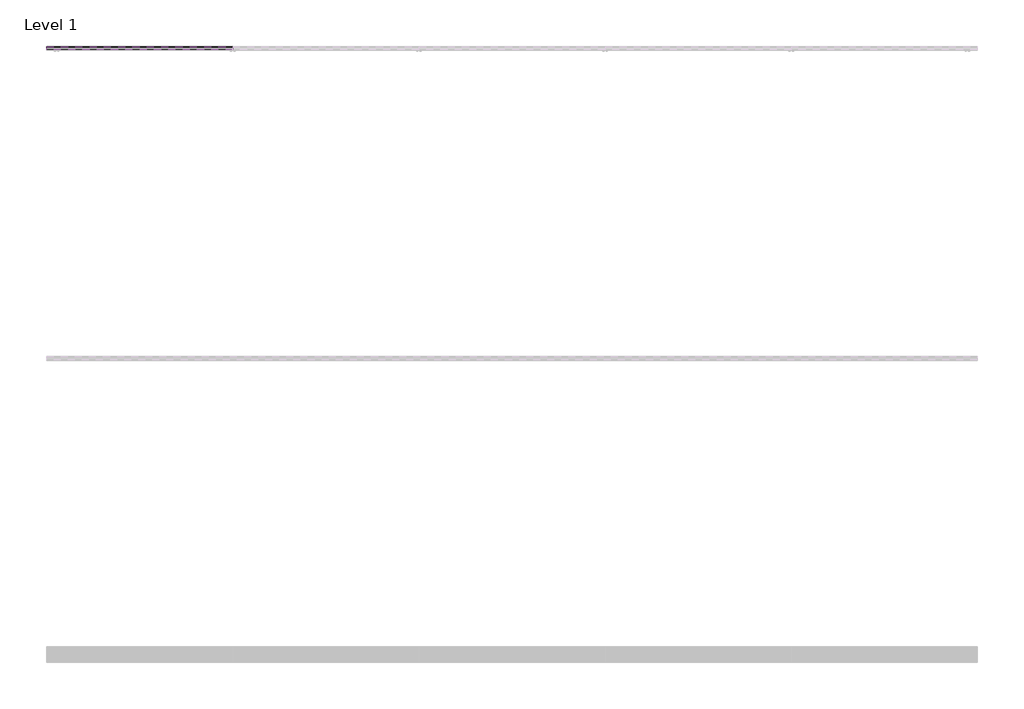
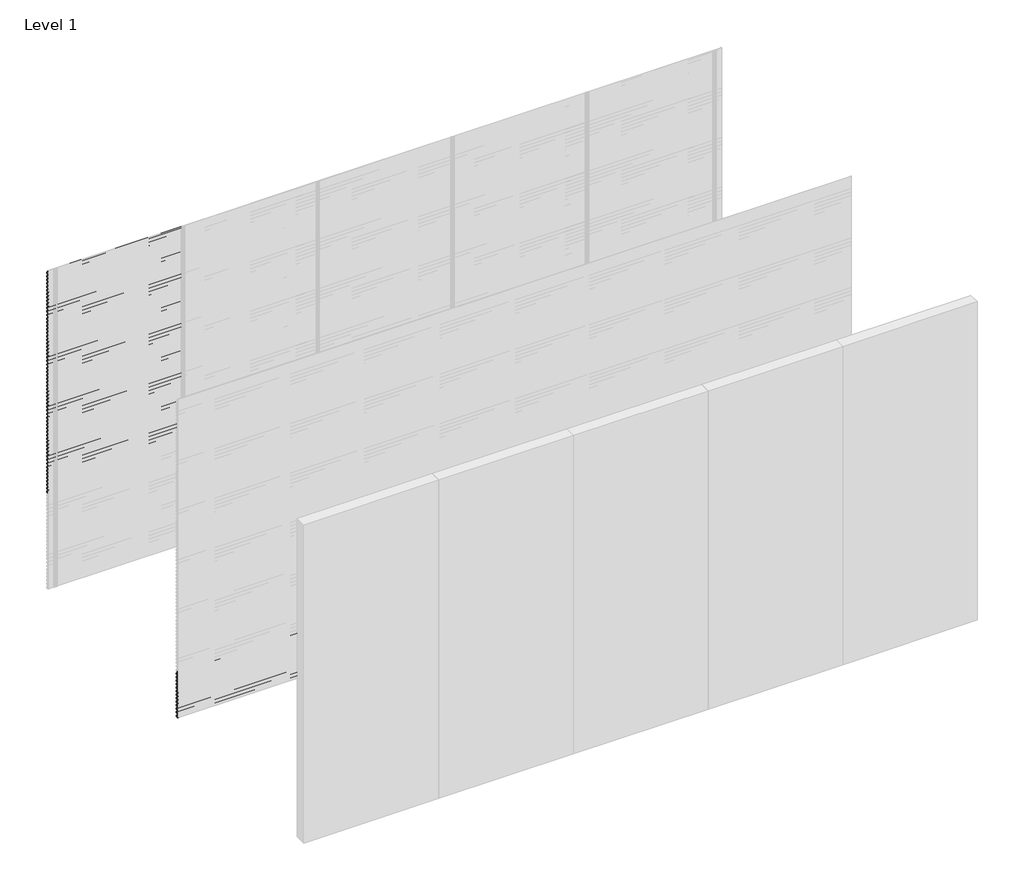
# One storey, part 72 of 77: 76 proxies.
"""IFC4 building model written with IfcOpenShell, lengths in millimetres."""

from ifc_helpers import new_model, si_unit, frame, origin, place, context, project, spatial, polyline, outline, extrude, element, save

model = new_model("IFC4")

# Units and contexts
model_context = context("Model", 3, world=origin())
ifc_project = project(units=[si_unit("LENGTHUNIT", "METRE", prefix="MILLI")], contexts=[model_context])

# Site, building, storey
site = spatial("IfcSite", under=ifc_project)
building = spatial("IfcBuilding", under=site)
storey = spatial("IfcBuildingStorey", under=building, Name="Level 1", Elevation=0.0)

# Proxies
placement = place(None, origin())
element("IfcBuildingElementProxy", 1, Name="Wall Sweeps", at=placement, inside=storey, context=model_context, shape_type="SweptSolid", body=[
    extrude(outline(polyline([(21.4, 2972.5359887), (2.0, 2983.7366691), (2.0, 2997.0), (3.0, 2997.0), (3.0, 2984.3191057), (22.4, 2973.1185105), (22.4, 2959.5185105), (21.4, 2961.0953129), (21.4, 2966.9032062), (4.0226183, 2958.8), (3.6, 2959.7063078), (21.4, 2968.0065841), (21.4, 2972.5359887)])), frame((0.0, 0.0, 0.0), z_axis=(1.0, 0.0, 0.0), x_axis=(0.0, 1.0, 0.0)), (0.0, 0.0, 1.0), 1200.0),
])
element("IfcBuildingElementProxy", 2, Name="Wall Sweeps", at=placement, inside=storey, context=model_context, shape_type="SweptSolid", body=[
    extrude(outline(polyline([(21.4, 2939.2359887), (2.0, 2950.4366691), (2.0, 2963.7), (3.0, 2963.7), (3.0, 2951.0191057), (22.4, 2939.8185105), (22.4, 2926.2185105), (21.4, 2927.7953129), (21.4, 2933.6032062), (4.0226183, 2925.5), (3.6, 2926.4063078), (21.4, 2934.7065841), (21.4, 2939.2359887)])), frame((0.0, 0.0, 0.0), z_axis=(1.0, 0.0, 0.0), x_axis=(0.0, 1.0, 0.0)), (0.0, 0.0, 1.0), 1200.0),
])
element("IfcBuildingElementProxy", 3, Name="Wall Sweeps", at=placement, inside=storey, context=model_context, shape_type="SweptSolid", body=[
    extrude(outline(polyline([(21.4, 2905.9359887), (2.0, 2917.1366691), (2.0, 2930.4), (3.0, 2930.4), (3.0, 2917.7191057), (22.4, 2906.5185105), (22.4, 2892.9185105), (21.4, 2894.4953129), (21.4, 2900.3032062), (4.0226183, 2892.2), (3.6, 2893.1063078), (21.4, 2901.4065841), (21.4, 2905.9359887)])), frame((0.0, 0.0, 0.0), z_axis=(1.0, 0.0, 0.0), x_axis=(0.0, 1.0, 0.0)), (0.0, 0.0, 1.0), 1200.0),
])
element("IfcBuildingElementProxy", 4, Name="Wall Sweeps", at=placement, inside=storey, context=model_context, shape_type="SweptSolid", body=[
    extrude(outline(polyline([(21.4, 2872.6359887), (2.0, 2883.8366691), (2.0, 2897.1), (3.0, 2897.1), (3.0, 2884.4191057), (22.4, 2873.2185105), (22.4, 2859.6185105), (21.4, 2861.1953129), (21.4, 2867.0032062), (4.0226183, 2858.9), (3.6, 2859.8063078), (21.4, 2868.1065841), (21.4, 2872.6359887)])), frame((0.0, 0.0, 0.0), z_axis=(1.0, 0.0, 0.0), x_axis=(0.0, 1.0, 0.0)), (0.0, 0.0, 1.0), 1200.0),
])
element("IfcBuildingElementProxy", 5, Name="Wall Sweeps", at=placement, inside=storey, context=model_context, shape_type="SweptSolid", body=[
    extrude(outline(polyline([(21.4, 2839.3359887), (2.0, 2850.5366691), (2.0, 2863.8), (3.0, 2863.8), (3.0, 2851.1191057), (22.4, 2839.9185105), (22.4, 2826.3185105), (21.4, 2827.8953129), (21.4, 2833.7032062), (4.0226183, 2825.6), (3.6, 2826.5063078), (21.4, 2834.8065841), (21.4, 2839.3359887)])), frame((0.0, 0.0, 0.0), z_axis=(1.0, 0.0, 0.0), x_axis=(0.0, 1.0, 0.0)), (0.0, 0.0, 1.0), 1200.0),
])
element("IfcBuildingElementProxy", 6, Name="Wall Sweeps", at=placement, inside=storey, context=model_context, shape_type="SweptSolid", body=[
    extrude(outline(polyline([(21.4, 2806.0359887), (2.0, 2817.2366691), (2.0, 2830.5), (3.0, 2830.5), (3.0, 2817.8191057), (22.4, 2806.6185105), (22.4, 2793.0185105), (21.4, 2794.5953129), (21.4, 2800.4032062), (4.0226183, 2792.3), (3.6, 2793.2063078), (21.4, 2801.5065841), (21.4, 2806.0359887)])), frame((0.0, 0.0, 0.0), z_axis=(1.0, 0.0, 0.0), x_axis=(0.0, 1.0, 0.0)), (0.0, 0.0, 1.0), 1200.0),
])
element("IfcBuildingElementProxy", 7, Name="Wall Sweeps", at=placement, inside=storey, context=model_context, shape_type="SweptSolid", body=[
    extrude(outline(polyline([(21.4, 2772.7359887), (2.0, 2783.9366691), (2.0, 2797.2), (3.0, 2797.2), (3.0, 2784.5191057), (22.4, 2773.3185105), (22.4, 2759.7185105), (21.4, 2761.2953129), (21.4, 2767.1032062), (4.0226183, 2759.0), (3.6, 2759.9063078), (21.4, 2768.2065841), (21.4, 2772.7359887)])), frame((0.0, 0.0, 0.0), z_axis=(1.0, 0.0, 0.0), x_axis=(0.0, 1.0, 0.0)), (0.0, 0.0, 1.0), 1200.0),
])
element("IfcBuildingElementProxy", 8, Name="Wall Sweeps", at=placement, inside=storey, context=model_context, shape_type="SweptSolid", body=[
    extrude(outline(polyline([(21.4, 2739.4359887), (2.0, 2750.6366691), (2.0, 2763.9), (3.0, 2763.9), (3.0, 2751.2191057), (22.4, 2740.0185105), (22.4, 2726.4185105), (21.4, 2727.9953129), (21.4, 2733.8032062), (4.0226183, 2725.7), (3.6, 2726.6063078), (21.4, 2734.9065841), (21.4, 2739.4359887)])), frame((0.0, 0.0, 0.0), z_axis=(1.0, 0.0, 0.0), x_axis=(0.0, 1.0, 0.0)), (0.0, 0.0, 1.0), 1200.0),
])
element("IfcBuildingElementProxy", 9, Name="Wall Sweeps", at=placement, inside=storey, context=model_context, shape_type="SweptSolid", body=[
    extrude(outline(polyline([(21.4, 2706.1359887), (2.0, 2717.3366691), (2.0, 2730.6), (3.0, 2730.6), (3.0, 2717.9191057), (22.4, 2706.7185105), (22.4, 2693.1185105), (21.4, 2694.6953129), (21.4, 2700.5032062), (4.0226183, 2692.4), (3.6, 2693.3063078), (21.4, 2701.6065841), (21.4, 2706.1359887)])), frame((0.0, 0.0, 0.0), z_axis=(1.0, 0.0, 0.0), x_axis=(0.0, 1.0, 0.0)), (0.0, 0.0, 1.0), 1200.0),
])
element("IfcBuildingElementProxy", 10, Name="Wall Sweeps", at=placement, inside=storey, context=model_context, shape_type="SweptSolid", body=[
    extrude(outline(polyline([(21.4, 2672.8359887), (2.0, 2684.0366691), (2.0, 2697.3), (3.0, 2697.3), (3.0, 2684.6191057), (22.4, 2673.4185105), (22.4, 2659.8185105), (21.4, 2661.3953129), (21.4, 2667.2032062), (4.0226183, 2659.1), (3.6, 2660.0063078), (21.4, 2668.3065841), (21.4, 2672.8359887)])), frame((0.0, 0.0, 0.0), z_axis=(1.0, 0.0, 0.0), x_axis=(0.0, 1.0, 0.0)), (0.0, 0.0, 1.0), 1200.0),
])
element("IfcBuildingElementProxy", 11, Name="Wall Sweeps", at=placement, inside=storey, context=model_context, shape_type="SweptSolid", body=[
    extrude(outline(polyline([(21.4, 2639.5359887), (2.0, 2650.7366691), (2.0, 2664.0), (3.0, 2664.0), (3.0, 2651.3191057), (22.4, 2640.1185105), (22.4, 2626.5185105), (21.4, 2628.0953129), (21.4, 2633.9032062), (4.0226183, 2625.8), (3.6, 2626.7063078), (21.4, 2635.0065841), (21.4, 2639.5359887)])), frame((0.0, 0.0, 0.0), z_axis=(1.0, 0.0, 0.0), x_axis=(0.0, 1.0, 0.0)), (0.0, 0.0, 1.0), 1200.0),
])
element("IfcBuildingElementProxy", 12, Name="Wall Sweeps", at=placement, inside=storey, context=model_context, shape_type="SweptSolid", body=[
    extrude(outline(polyline([(21.4, 2606.2359887), (2.0, 2617.4366691), (2.0, 2630.7), (3.0, 2630.7), (3.0, 2618.0191057), (22.4, 2606.8185105), (22.4, 2593.2185105), (21.4, 2594.7953129), (21.4, 2600.6032062), (4.0226183, 2592.5), (3.6, 2593.4063078), (21.4, 2601.7065841), (21.4, 2606.2359887)])), frame((0.0, 0.0, 0.0), z_axis=(1.0, 0.0, 0.0), x_axis=(0.0, 1.0, 0.0)), (0.0, 0.0, 1.0), 1200.0),
])
element("IfcBuildingElementProxy", 13, Name="Wall Sweeps", at=placement, inside=storey, context=model_context, shape_type="SweptSolid", body=[
    extrude(outline(polyline([(21.4, 2572.9359887), (2.0, 2584.1366691), (2.0, 2597.4), (3.0, 2597.4), (3.0, 2584.7191057), (22.4, 2573.5185105), (22.4, 2559.9185105), (21.4, 2561.4953129), (21.4, 2567.3032062), (4.0226183, 2559.2), (3.6, 2560.1063078), (21.4, 2568.4065841), (21.4, 2572.9359887)])), frame((0.0, 0.0, 0.0), z_axis=(1.0, 0.0, 0.0), x_axis=(0.0, 1.0, 0.0)), (0.0, 0.0, 1.0), 1200.0),
])
element("IfcBuildingElementProxy", 14, Name="Wall Sweeps", at=placement, inside=storey, context=model_context, shape_type="SweptSolid", body=[
    extrude(outline(polyline([(21.4, 2539.6359887), (2.0, 2550.8366691), (2.0, 2564.1), (3.0, 2564.1), (3.0, 2551.4191057), (22.4, 2540.2185105), (22.4, 2526.6185105), (21.4, 2528.1953129), (21.4, 2534.0032062), (4.0226183, 2525.9), (3.6, 2526.8063078), (21.4, 2535.1065841), (21.4, 2539.6359887)])), frame((0.0, 0.0, 0.0), z_axis=(1.0, 0.0, 0.0), x_axis=(0.0, 1.0, 0.0)), (0.0, 0.0, 1.0), 1200.0),
])
element("IfcBuildingElementProxy", 15, Name="Wall Sweeps", at=placement, inside=storey, context=model_context, shape_type="SweptSolid", body=[
    extrude(outline(polyline([(21.4, 2506.3359887), (2.0, 2517.5366691), (2.0, 2530.8), (3.0, 2530.8), (3.0, 2518.1191057), (22.4, 2506.9185105), (22.4, 2493.3185105), (21.4, 2494.8953129), (21.4, 2500.7032062), (4.0226183, 2492.6), (3.6, 2493.5063078), (21.4, 2501.8065841), (21.4, 2506.3359887)])), frame((0.0, 0.0, 0.0), z_axis=(1.0, 0.0, 0.0), x_axis=(0.0, 1.0, 0.0)), (0.0, 0.0, 1.0), 1200.0),
])
element("IfcBuildingElementProxy", 16, Name="Wall Sweeps", at=placement, inside=storey, context=model_context, shape_type="SweptSolid", body=[
    extrude(outline(polyline([(21.4, 2473.0359887), (2.0, 2484.2366691), (2.0, 2497.5), (3.0, 2497.5), (3.0, 2484.8191057), (22.4, 2473.6185105), (22.4, 2460.0185105), (21.4, 2461.5953129), (21.4, 2467.4032062), (4.0226183, 2459.3), (3.6, 2460.2063078), (21.4, 2468.5065841), (21.4, 2473.0359887)])), frame((0.0, 0.0, 0.0), z_axis=(1.0, 0.0, 0.0), x_axis=(0.0, 1.0, 0.0)), (0.0, 0.0, 1.0), 1200.0),
])
element("IfcBuildingElementProxy", 17, Name="Wall Sweeps", at=placement, inside=storey, context=model_context, shape_type="SweptSolid", body=[
    extrude(outline(polyline([(21.4, 2439.7359887), (2.0, 2450.9366691), (2.0, 2464.2), (3.0, 2464.2), (3.0, 2451.5191057), (22.4, 2440.3185105), (22.4, 2426.7185105), (21.4, 2428.2953129), (21.4, 2434.1032062), (4.0226183, 2426.0), (3.6, 2426.9063078), (21.4, 2435.2065841), (21.4, 2439.7359887)])), frame((0.0, 0.0, 0.0), z_axis=(1.0, 0.0, 0.0), x_axis=(0.0, 1.0, 0.0)), (0.0, 0.0, 1.0), 1200.0),
])
element("IfcBuildingElementProxy", 18, Name="Wall Sweeps", at=placement, inside=storey, context=model_context, shape_type="SweptSolid", body=[
    extrude(outline(polyline([(21.4, 2406.4359887), (2.0, 2417.6366691), (2.0, 2430.9), (3.0, 2430.9), (3.0, 2418.2191057), (22.4, 2407.0185105), (22.4, 2393.4185105), (21.4, 2394.9953129), (21.4, 2400.8032062), (4.0226183, 2392.7), (3.6, 2393.6063078), (21.4, 2401.9065841), (21.4, 2406.4359887)])), frame((0.0, 0.0, 0.0), z_axis=(1.0, 0.0, 0.0), x_axis=(0.0, 1.0, 0.0)), (0.0, 0.0, 1.0), 1200.0),
])
element("IfcBuildingElementProxy", 19, Name="Wall Sweeps", at=placement, inside=storey, context=model_context, shape_type="SweptSolid", body=[
    extrude(outline(polyline([(21.4, 2373.1359887), (2.0, 2384.3366691), (2.0, 2397.6), (3.0, 2397.6), (3.0, 2384.9191057), (22.4, 2373.7185105), (22.4, 2360.1185105), (21.4, 2361.6953129), (21.4, 2367.5032062), (4.0226183, 2359.4), (3.6, 2360.3063078), (21.4, 2368.6065841), (21.4, 2373.1359887)])), frame((0.0, 0.0, 0.0), z_axis=(1.0, 0.0, 0.0), x_axis=(0.0, 1.0, 0.0)), (0.0, 0.0, 1.0), 1200.0),
])
element("IfcBuildingElementProxy", 20, Name="Wall Sweeps", at=placement, inside=storey, context=model_context, shape_type="SweptSolid", body=[
    extrude(outline(polyline([(21.4, 2339.8359887), (2.0, 2351.0366691), (2.0, 2364.3), (3.0, 2364.3), (3.0, 2351.6191057), (22.4, 2340.4185105), (22.4, 2326.8185105), (21.4, 2328.3953129), (21.4, 2334.2032062), (4.0226183, 2326.1), (3.6, 2327.0063078), (21.4, 2335.3065841), (21.4, 2339.8359887)])), frame((0.0, 0.0, 0.0), z_axis=(1.0, 0.0, 0.0), x_axis=(0.0, 1.0, 0.0)), (0.0, 0.0, 1.0), 1200.0),
])
element("IfcBuildingElementProxy", 21, Name="Wall Sweeps", at=placement, inside=storey, context=model_context, shape_type="SweptSolid", body=[
    extrude(outline(polyline([(21.4, 2306.5359887), (2.0, 2317.7366691), (2.0, 2331.0), (3.0, 2331.0), (3.0, 2318.3191057), (22.4, 2307.1185105), (22.4, 2293.5185105), (21.4, 2295.0953129), (21.4, 2300.9032062), (4.0226183, 2292.8), (3.6, 2293.7063078), (21.4, 2302.0065841), (21.4, 2306.5359887)])), frame((0.0, 0.0, 0.0), z_axis=(1.0, 0.0, 0.0), x_axis=(0.0, 1.0, 0.0)), (0.0, 0.0, 1.0), 1200.0),
])
element("IfcBuildingElementProxy", 22, Name="Wall Sweeps", at=placement, inside=storey, context=model_context, shape_type="SweptSolid", body=[
    extrude(outline(polyline([(21.4, 2273.2359887), (2.0, 2284.4366691), (2.0, 2297.7), (3.0, 2297.7), (3.0, 2285.0191057), (22.4, 2273.8185105), (22.4, 2260.2185105), (21.4, 2261.7953129), (21.4, 2267.6032062), (4.0226183, 2259.5), (3.6, 2260.4063078), (21.4, 2268.7065841), (21.4, 2273.2359887)])), frame((0.0, 0.0, 0.0), z_axis=(1.0, 0.0, 0.0), x_axis=(0.0, 1.0, 0.0)), (0.0, 0.0, 1.0), 1200.0),
])
element("IfcBuildingElementProxy", 23, Name="Wall Sweeps", at=placement, inside=storey, context=model_context, shape_type="SweptSolid", body=[
    extrude(outline(polyline([(21.4, 2239.9359887), (2.0, 2251.1366691), (2.0, 2264.4), (3.0, 2264.4), (3.0, 2251.7191057), (22.4, 2240.5185105), (22.4, 2226.9185105), (21.4, 2228.4953129), (21.4, 2234.3032062), (4.0226183, 2226.2), (3.6, 2227.1063078), (21.4, 2235.4065841), (21.4, 2239.9359887)])), frame((0.0, 0.0, 0.0), z_axis=(1.0, 0.0, 0.0), x_axis=(0.0, 1.0, 0.0)), (0.0, 0.0, 1.0), 1200.0),
])
element("IfcBuildingElementProxy", 24, Name="Wall Sweeps", at=placement, inside=storey, context=model_context, shape_type="SweptSolid", body=[
    extrude(outline(polyline([(21.4, 2206.6359887), (2.0, 2217.8366691), (2.0, 2231.1), (3.0, 2231.1), (3.0, 2218.4191057), (22.4, 2207.2185105), (22.4, 2193.6185105), (21.4, 2195.1953129), (21.4, 2201.0032062), (4.0226183, 2192.9), (3.6, 2193.8063078), (21.4, 2202.1065841), (21.4, 2206.6359887)])), frame((0.0, 0.0, 0.0), z_axis=(1.0, 0.0, 0.0), x_axis=(0.0, 1.0, 0.0)), (0.0, 0.0, 1.0), 1200.0),
])
element("IfcBuildingElementProxy", 25, Name="Wall Sweeps", at=placement, inside=storey, context=model_context, shape_type="SweptSolid", body=[
    extrude(outline(polyline([(21.4, 2173.3359887), (2.0, 2184.5366691), (2.0, 2197.8), (3.0, 2197.8), (3.0, 2185.1191057), (22.4, 2173.9185105), (22.4, 2160.3185105), (21.4, 2161.8953129), (21.4, 2167.7032062), (4.0226183, 2159.6), (3.6, 2160.5063078), (21.4, 2168.8065841), (21.4, 2173.3359887)])), frame((0.0, 0.0, 0.0), z_axis=(1.0, 0.0, 0.0), x_axis=(0.0, 1.0, 0.0)), (0.0, 0.0, 1.0), 1200.0),
])
element("IfcBuildingElementProxy", 26, Name="Wall Sweeps", at=placement, inside=storey, context=model_context, shape_type="SweptSolid", body=[
    extrude(outline(polyline([(21.4, 2140.0359887), (2.0, 2151.2366691), (2.0, 2164.5), (3.0, 2164.5), (3.0, 2151.8191057), (22.4, 2140.6185105), (22.4, 2127.0185105), (21.4, 2128.5953129), (21.4, 2134.4032062), (4.0226183, 2126.3), (3.6, 2127.2063078), (21.4, 2135.5065841), (21.4, 2140.0359887)])), frame((0.0, 0.0, 0.0), z_axis=(1.0, 0.0, 0.0), x_axis=(0.0, 1.0, 0.0)), (0.0, 0.0, 1.0), 1200.0),
])
element("IfcBuildingElementProxy", 27, Name="Wall Sweeps", at=placement, inside=storey, context=model_context, shape_type="SweptSolid", body=[
    extrude(outline(polyline([(21.4, 2106.7359887), (2.0, 2117.9366691), (2.0, 2131.2), (3.0, 2131.2), (3.0, 2118.5191057), (22.4, 2107.3185105), (22.4, 2093.7185105), (21.4, 2095.2953129), (21.4, 2101.1032062), (4.0226183, 2093.0), (3.6, 2093.9063078), (21.4, 2102.2065841), (21.4, 2106.7359887)])), frame((0.0, 0.0, 0.0), z_axis=(1.0, 0.0, 0.0), x_axis=(0.0, 1.0, 0.0)), (0.0, 0.0, 1.0), 1200.0),
])
element("IfcBuildingElementProxy", 28, Name="Wall Sweeps", at=placement, inside=storey, context=model_context, shape_type="SweptSolid", body=[
    extrude(outline(polyline([(21.4, 2073.4359887), (2.0, 2084.6366691), (2.0, 2097.9), (3.0, 2097.9), (3.0, 2085.2191057), (22.4, 2074.0185105), (22.4, 2060.4185105), (21.4, 2061.9953129), (21.4, 2067.8032062), (4.0226183, 2059.7), (3.6, 2060.6063078), (21.4, 2068.9065841), (21.4, 2073.4359887)])), frame((0.0, 0.0, 0.0), z_axis=(1.0, 0.0, 0.0), x_axis=(0.0, 1.0, 0.0)), (0.0, 0.0, 1.0), 1200.0),
])
element("IfcBuildingElementProxy", 29, Name="Wall Sweeps", at=placement, inside=storey, context=model_context, shape_type="SweptSolid", body=[
    extrude(outline(polyline([(21.4, 2040.1359887), (2.0, 2051.3366691), (2.0, 2064.6), (3.0, 2064.6), (3.0, 2051.9191057), (22.4, 2040.7185105), (22.4, 2027.1185105), (21.4, 2028.6953129), (21.4, 2034.5032062), (4.0226183, 2026.4), (3.6, 2027.3063078), (21.4, 2035.6065841), (21.4, 2040.1359887)])), frame((0.0, 0.0, 0.0), z_axis=(1.0, 0.0, 0.0), x_axis=(0.0, 1.0, 0.0)), (0.0, 0.0, 1.0), 1200.0),
])
element("IfcBuildingElementProxy", 30, Name="Wall Sweeps", at=placement, inside=storey, context=model_context, shape_type="SweptSolid", body=[
    extrude(outline(polyline([(21.4, 2006.8359887), (2.0, 2018.0366691), (2.0, 2031.3), (3.0, 2031.3), (3.0, 2018.6191057), (22.4, 2007.4185105), (22.4, 1993.8185105), (21.4, 1995.3953129), (21.4, 2001.2032062), (4.0226183, 1993.1), (3.6, 1994.0063078), (21.4, 2002.3065841), (21.4, 2006.8359887)])), frame((0.0, 0.0, 0.0), z_axis=(1.0, 0.0, 0.0), x_axis=(0.0, 1.0, 0.0)), (0.0, 0.0, 1.0), 1200.0),
])
element("IfcBuildingElementProxy", 31, Name="Wall Sweeps", at=placement, inside=storey, context=model_context, shape_type="SweptSolid", body=[
    extrude(outline(polyline([(21.4, 1973.5359887), (2.0, 1984.7366691), (2.0, 1998.0), (3.0, 1998.0), (3.0, 1985.3191057), (22.4, 1974.1185105), (22.4, 1960.5185105), (21.4, 1962.0953129), (21.4, 1967.9032062), (4.0226183, 1959.8), (3.6, 1960.7063078), (21.4, 1969.0065841), (21.4, 1973.5359887)])), frame((0.0, 0.0, 0.0), z_axis=(1.0, 0.0, 0.0), x_axis=(0.0, 1.0, 0.0)), (0.0, 0.0, 1.0), 1200.0),
])
element("IfcBuildingElementProxy", 32, Name="Wall Sweeps", at=placement, inside=storey, context=model_context, shape_type="SweptSolid", body=[
    extrude(outline(polyline([(21.4, 1940.2359887), (2.0, 1951.4366691), (2.0, 1964.7), (3.0, 1964.7), (3.0, 1952.0191057), (22.4, 1940.8185105), (22.4, 1927.2185105), (21.4, 1928.7953129), (21.4, 1934.6032062), (4.0226183, 1926.5), (3.6, 1927.4063078), (21.4, 1935.7065841), (21.4, 1940.2359887)])), frame((0.0, 0.0, 0.0), z_axis=(1.0, 0.0, 0.0), x_axis=(0.0, 1.0, 0.0)), (0.0, 0.0, 1.0), 1200.0),
])
element("IfcBuildingElementProxy", 33, Name="Wall Sweeps", at=placement, inside=storey, context=model_context, shape_type="SweptSolid", body=[
    extrude(outline(polyline([(21.4, 1906.9359887), (2.0, 1918.1366691), (2.0, 1931.4), (3.0, 1931.4), (3.0, 1918.7191057), (22.4, 1907.5185105), (22.4, 1893.9185105), (21.4, 1895.4953129), (21.4, 1901.3032062), (4.0226183, 1893.2), (3.6, 1894.1063078), (21.4, 1902.4065841), (21.4, 1906.9359887)])), frame((0.0, 0.0, 0.0), z_axis=(1.0, 0.0, 0.0), x_axis=(0.0, 1.0, 0.0)), (0.0, 0.0, 1.0), 1200.0),
])
element("IfcBuildingElementProxy", 34, Name="Wall Sweeps", at=placement, inside=storey, context=model_context, shape_type="SweptSolid", body=[
    extrude(outline(polyline([(21.4, 1873.6359887), (2.0, 1884.8366691), (2.0, 1898.1), (3.0, 1898.1), (3.0, 1885.4191057), (22.4, 1874.2185105), (22.4, 1860.6185105), (21.4, 1862.1953129), (21.4, 1868.0032062), (4.0226183, 1859.9), (3.6, 1860.8063078), (21.4, 1869.1065841), (21.4, 1873.6359887)])), frame((0.0, 0.0, 0.0), z_axis=(1.0, 0.0, 0.0), x_axis=(0.0, 1.0, 0.0)), (0.0, 0.0, 1.0), 1200.0),
])
element("IfcBuildingElementProxy", 35, Name="Wall Sweeps", at=placement, inside=storey, context=model_context, shape_type="SweptSolid", body=[
    extrude(outline(polyline([(21.4, 1840.3359887), (2.0, 1851.5366691), (2.0, 1864.8), (3.0, 1864.8), (3.0, 1852.1191057), (22.4, 1840.9185105), (22.4, 1827.3185105), (21.4, 1828.8953129), (21.4, 1834.7032062), (4.0226183, 1826.6), (3.6, 1827.5063078), (21.4, 1835.8065841), (21.4, 1840.3359887)])), frame((0.0, 0.0, 0.0), z_axis=(1.0, 0.0, 0.0), x_axis=(0.0, 1.0, 0.0)), (0.0, 0.0, 1.0), 1200.0),
])
element("IfcBuildingElementProxy", 36, Name="Wall Sweeps", at=placement, inside=storey, context=model_context, shape_type="SweptSolid", body=[
    extrude(outline(polyline([(21.4, 1807.0359887), (2.0, 1818.2366691), (2.0, 1831.5), (3.0, 1831.5), (3.0, 1818.8191057), (22.4, 1807.6185105), (22.4, 1794.0185105), (21.4, 1795.5953129), (21.4, 1801.4032062), (4.0226183, 1793.3), (3.6, 1794.2063078), (21.4, 1802.5065841), (21.4, 1807.0359887)])), frame((0.0, 0.0, 0.0), z_axis=(1.0, 0.0, 0.0), x_axis=(0.0, 1.0, 0.0)), (0.0, 0.0, 1.0), 1200.0),
])
element("IfcBuildingElementProxy", 37, Name="Wall Sweeps", at=placement, inside=storey, context=model_context, shape_type="SweptSolid", body=[
    extrude(outline(polyline([(21.4, 1773.7359887), (2.0, 1784.9366691), (2.0, 1798.2), (3.0, 1798.2), (3.0, 1785.5191057), (22.4, 1774.3185105), (22.4, 1760.7185105), (21.4, 1762.2953129), (21.4, 1768.1032062), (4.0226183, 1760.0), (3.6, 1760.9063078), (21.4, 1769.2065841), (21.4, 1773.7359887)])), frame((0.0, 0.0, 0.0), z_axis=(1.0, 0.0, 0.0), x_axis=(0.0, 1.0, 0.0)), (0.0, 0.0, 1.0), 1200.0),
])
element("IfcBuildingElementProxy", 38, Name="Wall Sweeps", at=placement, inside=storey, context=model_context, shape_type="SweptSolid", body=[
    extrude(outline(polyline([(21.4, 1740.4359887), (2.0, 1751.6366691), (2.0, 1764.9), (3.0, 1764.9), (3.0, 1752.2191057), (22.4, 1741.0185105), (22.4, 1727.4185105), (21.4, 1728.9953129), (21.4, 1734.8032062), (4.0226183, 1726.7), (3.6, 1727.6063078), (21.4, 1735.9065841), (21.4, 1740.4359887)])), frame((0.0, 0.0, 0.0), z_axis=(1.0, 0.0, 0.0), x_axis=(0.0, 1.0, 0.0)), (0.0, 0.0, 1.0), 1200.0),
])
element("IfcBuildingElementProxy", 39, Name="Wall Sweeps", at=placement, inside=storey, context=model_context, shape_type="SweptSolid", body=[
    extrude(outline(polyline([(21.4, 1707.1359887), (2.0, 1718.3366691), (2.0, 1731.6), (3.0, 1731.6), (3.0, 1718.9191057), (22.4, 1707.7185105), (22.4, 1694.1185105), (21.4, 1695.6953129), (21.4, 1701.5032062), (4.0226183, 1693.4), (3.6, 1694.3063078), (21.4, 1702.6065841), (21.4, 1707.1359887)])), frame((0.0, 0.0, 0.0), z_axis=(1.0, 0.0, 0.0), x_axis=(0.0, 1.0, 0.0)), (0.0, 0.0, 1.0), 1200.0),
])
element("IfcBuildingElementProxy", 40, Name="Wall Sweeps", at=placement, inside=storey, context=model_context, shape_type="SweptSolid", body=[
    extrude(outline(polyline([(21.4, 1673.8359887), (2.0, 1685.0366691), (2.0, 1698.3), (3.0, 1698.3), (3.0, 1685.6191057), (22.4, 1674.4185105), (22.4, 1660.8185105), (21.4, 1662.3953129), (21.4, 1668.2032062), (4.0226183, 1660.1), (3.6, 1661.0063078), (21.4, 1669.3065841), (21.4, 1673.8359887)])), frame((0.0, 0.0, 0.0), z_axis=(1.0, 0.0, 0.0), x_axis=(0.0, 1.0, 0.0)), (0.0, 0.0, 1.0), 1200.0),
])
element("IfcBuildingElementProxy", 41, Name="Wall Sweeps", at=placement, inside=storey, context=model_context, shape_type="SweptSolid", body=[
    extrude(outline(polyline([(21.4, 1640.5359887), (2.0, 1651.7366691), (2.0, 1665.0), (3.0, 1665.0), (3.0, 1652.3191057), (22.4, 1641.1185105), (22.4, 1627.5185105), (21.4, 1629.0953129), (21.4, 1634.9032062), (4.0226183, 1626.8), (3.6, 1627.7063078), (21.4, 1636.0065841), (21.4, 1640.5359887)])), frame((0.0, 0.0, 0.0), z_axis=(1.0, 0.0, 0.0), x_axis=(0.0, 1.0, 0.0)), (0.0, 0.0, 1.0), 1200.0),
])
element("IfcBuildingElementProxy", 42, Name="Wall Sweeps", at=placement, inside=storey, context=model_context, shape_type="SweptSolid", body=[
    extrude(outline(polyline([(21.4, 1607.2359887), (2.0, 1618.4366691), (2.0, 1631.7), (3.0, 1631.7), (3.0, 1619.0191057), (22.4, 1607.8185105), (22.4, 1594.2185105), (21.4, 1595.7953129), (21.4, 1601.6032062), (4.0226183, 1593.5), (3.6, 1594.4063078), (21.4, 1602.7065841), (21.4, 1607.2359887)])), frame((0.0, 0.0, 0.0), z_axis=(1.0, 0.0, 0.0), x_axis=(0.0, 1.0, 0.0)), (0.0, 0.0, 1.0), 1200.0),
])
element("IfcBuildingElementProxy", 43, Name="Wall Sweeps", at=placement, inside=storey, context=model_context, shape_type="SweptSolid", body=[
    extrude(outline(polyline([(21.4, 1573.9359887), (2.0, 1585.1366691), (2.0, 1598.4), (3.0, 1598.4), (3.0, 1585.7191057), (22.4, 1574.5185105), (22.4, 1560.9185105), (21.4, 1562.4953129), (21.4, 1568.3032062), (4.0226183, 1560.2), (3.6, 1561.1063078), (21.4, 1569.4065841), (21.4, 1573.9359887)])), frame((0.0, 0.0, 0.0), z_axis=(1.0, 0.0, 0.0), x_axis=(0.0, 1.0, 0.0)), (0.0, 0.0, 1.0), 1200.0),
])
element("IfcBuildingElementProxy", 44, Name="Wall Sweeps", at=placement, inside=storey, context=model_context, shape_type="SweptSolid", body=[
    extrude(outline(polyline([(21.4, 1540.6359887), (2.0, 1551.8366691), (2.0, 1565.1), (3.0, 1565.1), (3.0, 1552.4191057), (22.4, 1541.2185105), (22.4, 1527.6185105), (21.4, 1529.1953129), (21.4, 1535.0032062), (4.0226183, 1526.9), (3.6, 1527.8063078), (21.4, 1536.1065841), (21.4, 1540.6359887)])), frame((0.0, 0.0, 0.0), z_axis=(1.0, 0.0, 0.0), x_axis=(0.0, 1.0, 0.0)), (0.0, 0.0, 1.0), 1200.0),
])
element("IfcBuildingElementProxy", 45, Name="Wall Sweeps", at=placement, inside=storey, context=model_context, shape_type="SweptSolid", body=[
    extrude(outline(polyline([(21.4, 1507.3359887), (2.0, 1518.5366691), (2.0, 1531.8), (3.0, 1531.8), (3.0, 1519.1191057), (22.4, 1507.9185105), (22.4, 1494.3185105), (21.4, 1495.8953129), (21.4, 1501.7032062), (4.0226183, 1493.6), (3.6, 1494.5063078), (21.4, 1502.8065841), (21.4, 1507.3359887)])), frame((0.0, 0.0, 0.0), z_axis=(1.0, 0.0, 0.0), x_axis=(0.0, 1.0, 0.0)), (0.0, 0.0, 1.0), 1200.0),
])
element("IfcBuildingElementProxy", 46, Name="Wall Sweeps", at=placement, inside=storey, context=model_context, shape_type="SweptSolid", body=[
    extrude(outline(polyline([(21.4, 1474.0359887), (2.0, 1485.2366691), (2.0, 1498.5), (3.0, 1498.5), (3.0, 1485.8191057), (22.4, 1474.6185105), (22.4, 1461.0185105), (21.4, 1462.5953129), (21.4, 1468.4032062), (4.0226183, 1460.3), (3.6, 1461.2063078), (21.4, 1469.5065841), (21.4, 1474.0359887)])), frame((0.0, 0.0, 0.0), z_axis=(1.0, 0.0, 0.0), x_axis=(0.0, 1.0, 0.0)), (0.0, 0.0, 1.0), 1200.0),
])
element("IfcBuildingElementProxy", 47, Name="Wall Sweeps", at=placement, inside=storey, context=model_context, shape_type="SweptSolid", body=[
    extrude(outline(polyline([(21.4, 1440.7359887), (2.0, 1451.9366691), (2.0, 1465.2), (3.0, 1465.2), (3.0, 1452.5191057), (22.4, 1441.3185105), (22.4, 1427.7185105), (21.4, 1429.2953129), (21.4, 1435.1032062), (4.0226183, 1427.0), (3.6, 1427.9063078), (21.4, 1436.2065841), (21.4, 1440.7359887)])), frame((0.0, 0.0, 0.0), z_axis=(1.0, 0.0, 0.0), x_axis=(0.0, 1.0, 0.0)), (0.0, 0.0, 1.0), 1200.0),
])
element("IfcBuildingElementProxy", 48, Name="Wall Sweeps", at=placement, inside=storey, context=model_context, shape_type="SweptSolid", body=[
    extrude(outline(polyline([(21.4, 1407.4359887), (2.0, 1418.6366691), (2.0, 1431.9), (3.0, 1431.9), (3.0, 1419.2191057), (22.4, 1408.0185105), (22.4, 1394.4185105), (21.4, 1395.9953129), (21.4, 1401.8032062), (4.0226183, 1393.7), (3.6, 1394.6063078), (21.4, 1402.9065841), (21.4, 1407.4359887)])), frame((0.0, 0.0, 0.0), z_axis=(1.0, 0.0, 0.0), x_axis=(0.0, 1.0, 0.0)), (0.0, 0.0, 1.0), 1200.0),
])
element("IfcBuildingElementProxy", 49, Name="Wall Sweeps", at=placement, inside=storey, context=model_context, shape_type="SweptSolid", body=[
    extrude(outline(polyline([(21.4, 1374.1359887), (2.0, 1385.3366691), (2.0, 1398.6), (3.0, 1398.6), (3.0, 1385.9191057), (22.4, 1374.7185105), (22.4, 1361.1185105), (21.4, 1362.6953129), (21.4, 1368.5032062), (4.0226183, 1360.4), (3.6, 1361.3063078), (21.4, 1369.6065841), (21.4, 1374.1359887)])), frame((0.0, 0.0, 0.0), z_axis=(1.0, 0.0, 0.0), x_axis=(0.0, 1.0, 0.0)), (0.0, 0.0, 1.0), 1200.0),
])
element("IfcBuildingElementProxy", 50, Name="Wall Sweeps", at=placement, inside=storey, context=model_context, shape_type="SweptSolid", body=[
    extrude(outline(polyline([(21.4, 1340.8359887), (2.0, 1352.0366691), (2.0, 1365.3), (3.0, 1365.3), (3.0, 1352.6191057), (22.4, 1341.4185105), (22.4, 1327.8185105), (21.4, 1329.3953129), (21.4, 1335.2032062), (4.0226183, 1327.1), (3.6, 1328.0063078), (21.4, 1336.3065841), (21.4, 1340.8359887)])), frame((0.0, 0.0, 0.0), z_axis=(1.0, 0.0, 0.0), x_axis=(0.0, 1.0, 0.0)), (0.0, 0.0, 1.0), 1200.0),
])
element("IfcBuildingElementProxy", 51, Name="Wall Sweeps", at=placement, inside=storey, context=model_context, shape_type="SweptSolid", body=[
    extrude(outline(polyline([(21.4, 1307.5359887), (2.0, 1318.7366691), (2.0, 1332.0), (3.0, 1332.0), (3.0, 1319.3191057), (22.4, 1308.1185105), (22.4, 1294.5185105), (21.4, 1296.0953129), (21.4, 1301.9032062), (4.0226183, 1293.8), (3.6, 1294.7063078), (21.4, 1303.0065841), (21.4, 1307.5359887)])), frame((0.0, 0.0, 0.0), z_axis=(1.0, 0.0, 0.0), x_axis=(0.0, 1.0, 0.0)), (0.0, 0.0, 1.0), 1200.0),
])
element("IfcBuildingElementProxy", 52, Name="Wall Sweeps", at=placement, inside=storey, context=model_context, shape_type="SweptSolid", body=[
    extrude(outline(polyline([(21.4, 1274.2359887), (2.0, 1285.4366691), (2.0, 1298.7), (3.0, 1298.7), (3.0, 1286.0191057), (22.4, 1274.8185105), (22.4, 1261.2185105), (21.4, 1262.7953129), (21.4, 1268.6032062), (4.0226183, 1260.5), (3.6, 1261.4063078), (21.4, 1269.7065841), (21.4, 1274.2359887)])), frame((0.0, 0.0, 0.0), z_axis=(1.0, 0.0, 0.0), x_axis=(0.0, 1.0, 0.0)), (0.0, 0.0, 1.0), 1200.0),
])
element("IfcBuildingElementProxy", 53, Name="Wall Sweeps", at=placement, inside=storey, context=model_context, shape_type="SweptSolid", body=[
    extrude(outline(polyline([(21.4, 1240.9359887), (2.0, 1252.1366691), (2.0, 1265.4), (3.0, 1265.4), (3.0, 1252.7191057), (22.4, 1241.5185105), (22.4, 1227.9185105), (21.4, 1229.4953129), (21.4, 1235.3032062), (4.0226183, 1227.2), (3.6, 1228.1063078), (21.4, 1236.4065841), (21.4, 1240.9359887)])), frame((0.0, 0.0, 0.0), z_axis=(1.0, 0.0, 0.0), x_axis=(0.0, 1.0, 0.0)), (0.0, 0.0, 1.0), 1200.0),
])
element("IfcBuildingElementProxy", 54, Name="Wall Sweeps", at=placement, inside=storey, context=model_context, shape_type="SweptSolid", body=[
    extrude(outline(polyline([(21.4, 1207.6359887), (2.0, 1218.8366691), (2.0, 1232.1), (3.0, 1232.1), (3.0, 1219.4191057), (22.4, 1208.2185105), (22.4, 1194.6185105), (21.4, 1196.1953129), (21.4, 1202.0032062), (4.0226183, 1193.9), (3.6, 1194.8063078), (21.4, 1203.1065841), (21.4, 1207.6359887)])), frame((0.0, 0.0, 0.0), z_axis=(1.0, 0.0, 0.0), x_axis=(0.0, 1.0, 0.0)), (0.0, 0.0, 1.0), 1200.0),
])
element("IfcBuildingElementProxy", 55, Name="Wall Sweeps", at=placement, inside=storey, context=model_context, shape_type="SweptSolid", body=[
    extrude(outline(polyline([(21.4, 1174.3359887), (2.0, 1185.5366691), (2.0, 1198.8), (3.0, 1198.8), (3.0, 1186.1191057), (22.4, 1174.9185105), (22.4, 1161.3185105), (21.4, 1162.8953129), (21.4, 1168.7032062), (4.0226183, 1160.6), (3.6, 1161.5063078), (21.4, 1169.8065841), (21.4, 1174.3359887)])), frame((0.0, 0.0, 0.0), z_axis=(1.0, 0.0, 0.0), x_axis=(0.0, 1.0, 0.0)), (0.0, 0.0, 1.0), 1200.0),
])
element("IfcBuildingElementProxy", 56, Name="Wall Sweeps", at=placement, inside=storey, context=model_context, shape_type="SweptSolid", body=[
    extrude(outline(polyline([(21.4, 1141.0359887), (2.0, 1152.2366691), (2.0, 1165.5), (3.0, 1165.5), (3.0, 1152.8191057), (22.4, 1141.6185105), (22.4, 1128.0185105), (21.4, 1129.5953129), (21.4, 1135.4032062), (4.0226183, 1127.3), (3.6, 1128.2063078), (21.4, 1136.5065841), (21.4, 1141.0359887)])), frame((0.0, 0.0, 0.0), z_axis=(1.0, 0.0, 0.0), x_axis=(0.0, 1.0, 0.0)), (0.0, 0.0, 1.0), 1200.0),
])
element("IfcBuildingElementProxy", 57, Name="Wall Sweeps", at=placement, inside=storey, context=model_context, shape_type="SweptSolid", body=[
    extrude(outline(polyline([(21.4, 1107.7359887), (2.0, 1118.9366691), (2.0, 1132.2), (3.0, 1132.2), (3.0, 1119.5191057), (22.4, 1108.3185105), (22.4, 1094.7185105), (21.4, 1096.2953129), (21.4, 1102.1032062), (4.0226183, 1094.0), (3.6, 1094.9063078), (21.4, 1103.2065841), (21.4, 1107.7359887)])), frame((0.0, 0.0, 0.0), z_axis=(1.0, 0.0, 0.0), x_axis=(0.0, 1.0, 0.0)), (0.0, 0.0, 1.0), 1200.0),
])
element("IfcBuildingElementProxy", 58, Name="Wall Sweeps", at=placement, inside=storey, context=model_context, shape_type="SweptSolid", body=[
    extrude(outline(polyline([(21.4, 1074.4359887), (2.0, 1085.6366691), (2.0, 1098.9), (3.0, 1098.9), (3.0, 1086.2191057), (22.4, 1075.0185105), (22.4, 1061.4185105), (21.4, 1062.9953129), (21.4, 1068.8032062), (4.0226183, 1060.7), (3.6, 1061.6063078), (21.4, 1069.9065841), (21.4, 1074.4359887)])), frame((0.0, 0.0, 0.0), z_axis=(1.0, 0.0, 0.0), x_axis=(0.0, 1.0, 0.0)), (0.0, 0.0, 1.0), 1200.0),
])
element("IfcBuildingElementProxy", 59, Name="Wall Sweeps", at=placement, inside=storey, context=model_context, shape_type="SweptSolid", body=[
    extrude(outline(polyline([(21.4, 1041.1359887), (2.0, 1052.3366691), (2.0, 1065.6), (3.0, 1065.6), (3.0, 1052.9191057), (22.4, 1041.7185105), (22.4, 1028.1185105), (21.4, 1029.6953129), (21.4, 1035.5032062), (4.0226183, 1027.4), (3.6, 1028.3063078), (21.4, 1036.6065841), (21.4, 1041.1359887)])), frame((0.0, 0.0, 0.0), z_axis=(1.0, 0.0, 0.0), x_axis=(0.0, 1.0, 0.0)), (0.0, 0.0, 1.0), 1200.0),
])
element("IfcBuildingElementProxy", 60, Name="Wall Sweeps", at=placement, inside=storey, context=model_context, shape_type="SweptSolid", body=[
    extrude(outline(polyline([(21.4, 1007.8359887), (2.0, 1019.0366691), (2.0, 1032.3), (3.0, 1032.3), (3.0, 1019.6191057), (22.4, 1008.4185105), (22.4, 994.8185105), (21.4, 996.3953129), (21.4, 1002.2032062), (4.0226183, 994.1), (3.6, 995.0063078), (21.4, 1003.3065841), (21.4, 1007.8359887)])), frame((0.0, 0.0, 0.0), z_axis=(1.0, 0.0, 0.0), x_axis=(0.0, 1.0, 0.0)), (0.0, 0.0, 1.0), 1200.0),
])
element("IfcBuildingElementProxy", 61, Name="Wall Sweeps", at=placement, inside=storey, context=model_context, shape_type="SweptSolid", body=[
    extrude(outline(polyline([(21.4, 974.5359887), (2.0, 985.7366691), (2.0, 999.0), (3.0, 999.0), (3.0, 986.3191057), (22.4, 975.1185105), (22.4, 961.5185105), (21.4, 963.0953129), (21.4, 968.9032062), (4.0226183, 960.8), (3.6, 961.7063078), (21.4, 970.0065841), (21.4, 974.5359887)])), frame((0.0, 0.0, 0.0), z_axis=(1.0, 0.0, 0.0), x_axis=(0.0, 1.0, 0.0)), (0.0, 0.0, 1.0), 1200.0),
])
element("IfcBuildingElementProxy", 62, Name="Wall Sweeps", at=placement, inside=storey, context=model_context, shape_type="SweptSolid", body=[
    extrude(outline(polyline([(21.4, 941.2359887), (2.0, 952.4366691), (2.0, 965.7), (3.0, 965.7), (3.0, 953.0191057), (22.4, 941.8185105), (22.4, 928.2185105), (21.4, 929.7953129), (21.4, 935.6032062), (4.0226183, 927.5), (3.6, 928.4063078), (21.4, 936.7065841), (21.4, 941.2359887)])), frame((0.0, 0.0, 0.0), z_axis=(1.0, 0.0, 0.0), x_axis=(0.0, 1.0, 0.0)), (0.0, 0.0, 1.0), 1200.0),
])
element("IfcBuildingElementProxy", 63, Name="Wall Sweeps", at=placement, inside=storey, context=model_context, shape_type="SweptSolid", body=[
    extrude(outline(polyline([(21.4, 907.9359887), (2.0, 919.1366691), (2.0, 932.4), (3.0, 932.4), (3.0, 919.7191057), (22.4, 908.5185105), (22.4, 894.9185105), (21.4, 896.4953129), (21.4, 902.3032062), (4.0226183, 894.2), (3.6, 895.1063078), (21.4, 903.4065841), (21.4, 907.9359887)])), frame((0.0, 0.0, 0.0), z_axis=(1.0, 0.0, 0.0), x_axis=(0.0, 1.0, 0.0)), (0.0, 0.0, 1.0), 1200.0),
])
element("IfcBuildingElementProxy", 64, Name="Wall Sweeps", at=placement, inside=storey, context=model_context, shape_type="SweptSolid", body=[
    extrude(outline(polyline([(-1978.6, 408.4359887), (-1998.0, 419.6366691), (-1998.0, 432.9), (-1997.0, 432.9), (-1997.0, 420.2191057), (-1977.6, 409.0185105), (-1977.6, 395.4185105), (-1978.6, 396.9953129), (-1978.6, 402.8032062), (-1995.9773817, 394.7), (-1996.4, 395.6063078), (-1978.6, 403.9065841), (-1978.6, 408.4359887)])), frame((0.0, 0.0, 0.0), z_axis=(1.0, 0.0, 0.0), x_axis=(0.0, 1.0, 0.0)), (0.0, 0.0, 1.0), 6000.0),
])
element("IfcBuildingElementProxy", 65, Name="Wall Sweeps", at=placement, inside=storey, context=model_context, shape_type="SweptSolid", body=[
    extrude(outline(polyline([(-1978.6, 375.1359887), (-1998.0, 386.3366691), (-1998.0, 399.6), (-1997.0, 399.6), (-1997.0, 386.9191057), (-1977.6, 375.7185105), (-1977.6, 362.1185105), (-1978.6, 363.6953129), (-1978.6, 369.5032062), (-1995.9773817, 361.4), (-1996.4, 362.3063078), (-1978.6, 370.6065841), (-1978.6, 375.1359887)])), frame((0.0, 0.0, 0.0), z_axis=(1.0, 0.0, 0.0), x_axis=(0.0, 1.0, 0.0)), (0.0, 0.0, 1.0), 6000.0),
])
element("IfcBuildingElementProxy", 66, Name="Wall Sweeps", at=placement, inside=storey, context=model_context, shape_type="SweptSolid", body=[
    extrude(outline(polyline([(-1978.6, 341.8359887), (-1998.0, 353.0366691), (-1998.0, 366.3), (-1997.0, 366.3), (-1997.0, 353.6191057), (-1977.6, 342.4185105), (-1977.6, 328.8185105), (-1978.6, 330.3953129), (-1978.6, 336.2032062), (-1995.9773817, 328.1), (-1996.4, 329.0063078), (-1978.6, 337.3065841), (-1978.6, 341.8359887)])), frame((0.0, 0.0, 0.0), z_axis=(1.0, 0.0, 0.0), x_axis=(0.0, 1.0, 0.0)), (0.0, 0.0, 1.0), 6000.0),
])
element("IfcBuildingElementProxy", 67, Name="Wall Sweeps", at=placement, inside=storey, context=model_context, shape_type="SweptSolid", body=[
    extrude(outline(polyline([(-1978.6, 308.5359887), (-1998.0, 319.7366691), (-1998.0, 333.0), (-1997.0, 333.0), (-1997.0, 320.3191057), (-1977.6, 309.1185105), (-1977.6, 295.5185105), (-1978.6, 297.0953129), (-1978.6, 302.9032062), (-1995.9773817, 294.8), (-1996.4, 295.7063078), (-1978.6, 304.0065841), (-1978.6, 308.5359887)])), frame((0.0, 0.0, 0.0), z_axis=(1.0, 0.0, 0.0), x_axis=(0.0, 1.0, 0.0)), (0.0, 0.0, 1.0), 6000.0),
])
element("IfcBuildingElementProxy", 68, Name="Wall Sweeps", at=placement, inside=storey, context=model_context, shape_type="SweptSolid", body=[
    extrude(outline(polyline([(-1978.6, 275.2359887), (-1998.0, 286.4366691), (-1998.0, 299.7), (-1997.0, 299.7), (-1997.0, 287.0191057), (-1977.6, 275.8185105), (-1977.6, 262.2185105), (-1978.6, 263.7953129), (-1978.6, 269.6032062), (-1995.9773817, 261.5), (-1996.4, 262.4063078), (-1978.6, 270.7065841), (-1978.6, 275.2359887)])), frame((0.0, 0.0, 0.0), z_axis=(1.0, 0.0, 0.0), x_axis=(0.0, 1.0, 0.0)), (0.0, 0.0, 1.0), 6000.0),
])
element("IfcBuildingElementProxy", 69, Name="Wall Sweeps", at=placement, inside=storey, context=model_context, shape_type="SweptSolid", body=[
    extrude(outline(polyline([(-1978.6, 241.9359887), (-1998.0, 253.1366691), (-1998.0, 266.4), (-1997.0, 266.4), (-1997.0, 253.7191057), (-1977.6, 242.5185105), (-1977.6, 228.9185105), (-1978.6, 230.4953129), (-1978.6, 236.3032062), (-1995.9773817, 228.2), (-1996.4, 229.1063078), (-1978.6, 237.4065841), (-1978.6, 241.9359887)])), frame((0.0, 0.0, 0.0), z_axis=(1.0, 0.0, 0.0), x_axis=(0.0, 1.0, 0.0)), (0.0, 0.0, 1.0), 6000.0),
])
element("IfcBuildingElementProxy", 70, Name="Wall Sweeps", at=placement, inside=storey, context=model_context, shape_type="SweptSolid", body=[
    extrude(outline(polyline([(-1978.6, 208.6359887), (-1998.0, 219.8366691), (-1998.0, 233.1), (-1997.0, 233.1), (-1997.0, 220.4191057), (-1977.6, 209.2185105), (-1977.6, 195.6185105), (-1978.6, 197.1953129), (-1978.6, 203.0032062), (-1995.9773817, 194.9), (-1996.4, 195.8063078), (-1978.6, 204.1065841), (-1978.6, 208.6359887)])), frame((0.0, 0.0, 0.0), z_axis=(1.0, 0.0, 0.0), x_axis=(0.0, 1.0, 0.0)), (0.0, 0.0, 1.0), 6000.0),
])
element("IfcBuildingElementProxy", 71, Name="Wall Sweeps", at=placement, inside=storey, context=model_context, shape_type="SweptSolid", body=[
    extrude(outline(polyline([(-1978.6, 175.3359887), (-1998.0, 186.5366691), (-1998.0, 199.8), (-1997.0, 199.8), (-1997.0, 187.1191057), (-1977.6, 175.9185105), (-1977.6, 162.3185105), (-1978.6, 163.8953129), (-1978.6, 169.7032062), (-1995.9773817, 161.6), (-1996.4, 162.5063078), (-1978.6, 170.8065841), (-1978.6, 175.3359887)])), frame((0.0, 0.0, 0.0), z_axis=(1.0, 0.0, 0.0), x_axis=(0.0, 1.0, 0.0)), (0.0, 0.0, 1.0), 6000.0),
])
element("IfcBuildingElementProxy", 72, Name="Wall Sweeps", at=placement, inside=storey, context=model_context, shape_type="SweptSolid", body=[
    extrude(outline(polyline([(-1978.6, 142.0359887), (-1998.0, 153.2366691), (-1998.0, 166.5), (-1997.0, 166.5), (-1997.0, 153.8191057), (-1977.6, 142.6185105), (-1977.6, 129.0185105), (-1978.6, 130.5953129), (-1978.6, 136.4032062), (-1995.9773817, 128.3), (-1996.4, 129.2063078), (-1978.6, 137.5065841), (-1978.6, 142.0359887)])), frame((0.0, 0.0, 0.0), z_axis=(1.0, 0.0, 0.0), x_axis=(0.0, 1.0, 0.0)), (0.0, 0.0, 1.0), 6000.0),
])
element("IfcBuildingElementProxy", 73, Name="Wall Sweeps", at=placement, inside=storey, context=model_context, shape_type="SweptSolid", body=[
    extrude(outline(polyline([(-1978.6, 108.7359887), (-1998.0, 119.9366691), (-1998.0, 133.2), (-1997.0, 133.2), (-1997.0, 120.5191057), (-1977.6, 109.3185105), (-1977.6, 95.7185105), (-1978.6, 97.2953129), (-1978.6, 103.1032062), (-1995.9773817, 95.0), (-1996.4, 95.9063078), (-1978.6, 104.2065841), (-1978.6, 108.7359887)])), frame((0.0, 0.0, 0.0), z_axis=(1.0, 0.0, 0.0), x_axis=(0.0, 1.0, 0.0)), (0.0, 0.0, 1.0), 6000.0),
])
element("IfcBuildingElementProxy", 74, Name="Wall Sweeps", at=placement, inside=storey, context=model_context, shape_type="SweptSolid", body=[
    extrude(outline(polyline([(-1978.6, 75.4359887), (-1998.0, 86.6366691), (-1998.0, 99.9), (-1997.0, 99.9), (-1997.0, 87.2191057), (-1977.6, 76.0185105), (-1977.6, 62.4185105), (-1978.6, 63.9953129), (-1978.6, 69.8032062), (-1995.9773817, 61.7), (-1996.4, 62.6063078), (-1978.6, 70.9065841), (-1978.6, 75.4359887)])), frame((0.0, 0.0, 0.0), z_axis=(1.0, 0.0, 0.0), x_axis=(0.0, 1.0, 0.0)), (0.0, 0.0, 1.0), 6000.0),
])
element("IfcBuildingElementProxy", 75, Name="Wall Sweeps", at=placement, inside=storey, context=model_context, shape_type="SweptSolid", body=[
    extrude(outline(polyline([(-1978.6, 42.1359887), (-1998.0, 53.3366691), (-1998.0, 66.6), (-1997.0, 66.6), (-1997.0, 53.9191057), (-1977.6, 42.7185105), (-1977.6, 29.1185105), (-1978.6, 30.6953129), (-1978.6, 36.5032062), (-1995.9773817, 28.4), (-1996.4, 29.3063078), (-1978.6, 37.6065841), (-1978.6, 42.1359887)])), frame((0.0, 0.0, 0.0), z_axis=(1.0, 0.0, 0.0), x_axis=(0.0, 1.0, 0.0)), (0.0, 0.0, 1.0), 6000.0),
])
element("IfcBuildingElementProxy", 76, Name="Wall Sweeps", at=placement, inside=storey, context=model_context, shape_type="SweptSolid", body=[
    extrude(outline(polyline([(-1978.6, 8.8359887), (-1998.0, 20.0366691), (-1998.0, 33.3), (-1997.0, 33.3), (-1997.0, 20.6191057), (-1977.6, 9.4185105), (-1977.6, -4.1814895), (-1978.6, -2.6046871), (-1978.6, 3.2032062), (-1995.9773817, -4.9), (-1996.4, -3.9936922), (-1978.6, 4.3065841), (-1978.6, 8.8359887)])), frame((0.0, 0.0, 0.0), z_axis=(1.0, 0.0, 0.0), x_axis=(0.0, 1.0, 0.0)), (0.0, 0.0, 1.0), 6000.0),
])

save(model, "model.ifc")
